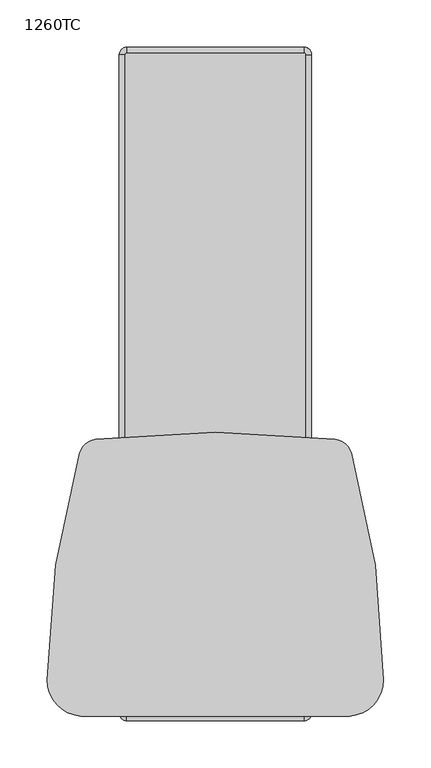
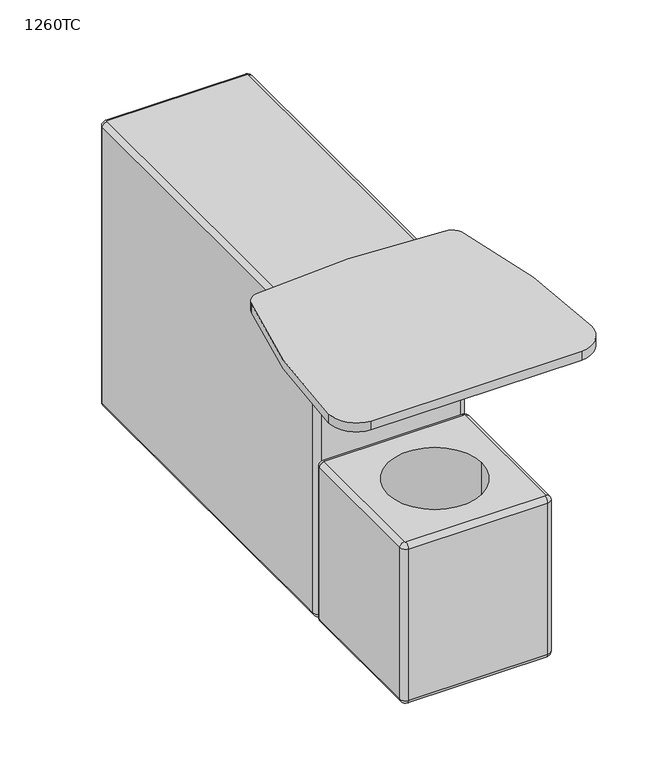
"""IFC4 building model written with IfcOpenShell, lengths in millimetres: furniture geometry, Laguna-Box_Arm-ERG : 1260TC."""

from ifc_helpers import new_model, si_unit, point, frame, frame_2d, origin, place, context, project, spatial, polyline, circle_curve, ellipse_curve, trimmed, segment, composite_curve, outline, extrude, source, transform, mapped, element, save
from ifc_brep_helpers import plane_surface, cylinder_surface, revolved_surface, advanced_brep


def furniture_1260tc_43bf5e02(model_context):
    return source(origin(), model_context, "Body", "SolidModel", [
        advanced_brep(
        [(-4669.0921763, 743.9358502, 431.8), (-4670.3621763, 745.2058502, 431.8), (-4858.3221763, 745.2058502, 431.8), (-4859.5921763, 743.9358502, 431.8), (-4859.5921763, 555.9758502, 431.8), (-4858.3221763, 554.7058502, 431.8), (-4670.3621763, 554.7058502, 431.8), (-4669.0921763, 555.9758502, 431.8), (-4700.8421763, 649.9558502, 431.8), (-4827.8421763, 649.9558502, 431.8), (-4670.3621763, 745.2058502, 203.2), (-4669.0921763, 743.9358502, 203.2), (-4669.0921763, 555.9758502, 203.2), (-4670.3621763, 554.7058502, 203.2), (-4858.3221763, 554.7058502, 203.2), (-4859.5921763, 555.9758502, 203.2), (-4859.5921763, 743.9358502, 203.2), (-4858.3221761, 745.2058502, 203.2), (-4662.7421763, 743.9358502, 209.55), (-4670.3621763, 751.5558502, 209.55), (-4670.3621763, 751.5558502, 425.45), (-4662.7421763, 743.9358502, 425.45), (-4662.7421763, 555.9758502, 425.45), (-4662.7421763, 555.9758502, 209.55), (-4670.3621763, 548.3558502, 425.45), (-4670.3621763, 548.3558502, 209.55), (-4858.3221763, 548.3558502, 425.45), (-4858.3221763, 548.3558502, 209.55), (-4865.9421763, 555.9758502, 425.45), (-4865.9421763, 555.9758502, 209.55), (-4865.9421763, 743.9358502, 425.45), (-4865.9421763, 743.9358502, 209.55), (-4858.3221763, 751.5558502, 425.45), (-4858.3221763, 751.5558502, 209.55), (-4827.8421763, 649.9558502, 223.0884039), (-4700.8421763, 649.9558502, 223.0884039)],
        [
            (0, 1, circle_curve(frame((-4670.3621763, 743.9358502, 431.8), z_axis=(0.0, 0.0, 1.0), x_axis=(0.0, 1.0, 0.0)), 1.27)),
            (1, 2),
            (2, 3, circle_curve(frame((-4858.3221763, 743.9358502, 431.8), z_axis=(0.0, 0.0, 1.0), x_axis=(-1.0, 0.0, 0.0)), 1.27)),
            (3, 4),
            (4, 5, circle_curve(frame((-4858.3221763, 555.9758502, 431.8), z_axis=(0.0, 0.0, 1.0), x_axis=(0.0, -1.0, 0.0)), 1.27)),
            (5, 6),
            (6, 7, circle_curve(frame((-4670.3621763, 555.9758502, 431.8), z_axis=(0.0, 0.0, 1.0), x_axis=(1.0, 0.0, 0.0)), 1.27)),
            (7, 0),
            (8, 9, circle_curve(frame((-4764.3421763, 649.9558502, 431.8), z_axis=(0.0, 0.0, -1.0), x_axis=(1.0, 0.0, 0.0)), 63.5)),
            (9, 8, circle_curve(frame((-4764.3421763, 649.9558502, 431.8), z_axis=(0.0, 0.0, -1.0), x_axis=(1.0, 0.0, 0.0)), 63.5)),
            (10, 11, circle_curve(frame((-4670.3621763, 743.9358502, 203.2), z_axis=(0.0, 0.0, -1.0), x_axis=(0.0, 1.0, 0.0)), 1.27)),
            (11, 12),
            (12, 13, circle_curve(frame((-4670.3621763, 555.9758502, 203.2), z_axis=(0.0, 0.0, -1.0), x_axis=(1.0, 0.0, 0.0)), 1.27)),
            (13, 14),
            (14, 15, circle_curve(frame((-4858.3221763, 555.9758502, 203.2), z_axis=(0.0, 0.0, -1.0), x_axis=(0.0, -1.0, 0.0)), 1.27)),
            (15, 16),
            (16, 17, circle_curve(frame((-4858.3221763, 743.9358502, 203.2), z_axis=(0.0, 0.0, -1.0), x_axis=(-1.0, 0.0, 0.0)), 1.27)),
            (17, 10),
            (18, 19, circle_curve(frame((-4670.3621763, 743.9358502, 209.55), z_axis=(0.0, 0.0, 1.0), x_axis=(0.0, 1.0, 0.0)), 7.62)),
            (19, 20),
            (20, 21, circle_curve(frame((-4670.3621763, 743.9358502, 425.45), z_axis=(0.0, 0.0, -1.0), x_axis=(0.0, 1.0, 0.0)), 7.62)),
            (21, 18),
            (18, 11, circle_curve(frame((-4669.0921763, 743.9358502, 209.55), z_axis=(0.0, 1.0, 0.0), x_axis=(-1.0, 0.0, 0.0)), 6.35)),
            (10, 19, circle_curve(frame((-4670.3621763, 745.2058502, 209.55), z_axis=(1.0, 0.0, 0.0), x_axis=(0.0, -1.0, 0.0)), 6.35)),
            (20, 1, circle_curve(frame((-4670.3621763, 745.2058502, 425.45), z_axis=(1.0, 0.0, 0.0), x_axis=(0.0, -1.0, 0.0)), 6.35)),
            (0, 21, circle_curve(frame((-4669.0921763, 743.9358502, 425.45), z_axis=(0.0, 1.0, 0.0), x_axis=(-1.0, 0.0, 0.0)), 6.35)),
            (21, 22),
            (22, 23),
            (23, 18),
            (23, 12, circle_curve(frame((-4669.0921763, 555.9758502, 209.55), z_axis=(0.0, 1.0, 0.0), x_axis=(-1.0, 0.0, 0.0)), 6.35)),
            (7, 22, circle_curve(frame((-4669.0921763, 555.9758502, 425.45), z_axis=(0.0, 1.0, 0.0), x_axis=(-1.0, 0.0, 0.0)), 6.35)),
            (22, 24, circle_curve(frame((-4670.3621763, 555.9758502, 425.45), z_axis=(0.0, 0.0, -1.0), x_axis=(1.0, 0.0, 0.0)), 7.62)),
            (24, 25),
            (25, 23, circle_curve(frame((-4670.3621763, 555.9758502, 209.55), z_axis=(0.0, 0.0, 1.0), x_axis=(1.0, 0.0, 0.0)), 7.62)),
            (25, 13, circle_curve(frame((-4670.3621763, 554.7058502, 209.55), z_axis=(1.0, 0.0, 0.0), x_axis=(0.0, 1.0, 0.0)), 6.35)),
            (6, 24, circle_curve(frame((-4670.3621763, 554.7058502, 425.45), z_axis=(1.0, 0.0, 0.0), x_axis=(0.0, 1.0, 0.0)), 6.35)),
            (24, 26),
            (26, 27),
            (27, 25),
            (27, 14, circle_curve(frame((-4858.3221763, 554.7058502, 209.55), z_axis=(1.0, 0.0, 0.0), x_axis=(0.0, 1.0, 0.0)), 6.35)),
            (5, 26, circle_curve(frame((-4858.3221763, 554.7058502, 425.45), z_axis=(1.0, 0.0, 0.0), x_axis=(0.0, 1.0, 0.0)), 6.35)),
            (26, 28, circle_curve(frame((-4858.3221763, 555.9758502, 425.45), z_axis=(0.0, 0.0, -1.0), x_axis=(0.0, -1.0, 0.0)), 7.62)),
            (28, 29),
            (29, 27, circle_curve(frame((-4858.3221763, 555.9758502, 209.55), z_axis=(0.0, 0.0, 1.0), x_axis=(0.0, -1.0, 0.0)), 7.62)),
            (29, 15, circle_curve(frame((-4859.5921763, 555.9758502, 209.55), z_axis=(0.0, -1.0, 0.0), x_axis=(1.0, 0.0, 0.0)), 6.35)),
            (4, 28, circle_curve(frame((-4859.5921763, 555.9758502, 425.45), z_axis=(0.0, -1.0, 0.0), x_axis=(1.0, 0.0, 0.0)), 6.35)),
            (28, 30),
            (30, 31),
            (31, 29),
            (31, 16, circle_curve(frame((-4859.5921763, 743.9358502, 209.55), z_axis=(0.0, -1.0, 0.0), x_axis=(1.0, 0.0, 0.0)), 6.35)),
            (3, 30, circle_curve(frame((-4859.5921763, 743.9358502, 425.45), z_axis=(0.0, -1.0, 0.0), x_axis=(1.0, 0.0, 0.0)), 6.35)),
            (30, 32, circle_curve(frame((-4858.3221763, 743.9358502, 425.45), z_axis=(0.0, 0.0, -1.0), x_axis=(-1.0, 0.0, 0.0)), 7.62)),
            (32, 33),
            (33, 31, circle_curve(frame((-4858.3221763, 743.9358502, 209.55), z_axis=(0.0, 0.0, 1.0), x_axis=(-1.0, 0.0, 0.0)), 7.62)),
            (33, 17, circle_curve(frame((-4858.3221763, 745.2058502, 209.55), z_axis=(-1.0, 0.0, 0.0), x_axis=(0.0, -1.0, 0.0)), 6.35)),
            (2, 32, circle_curve(frame((-4858.3221763, 745.2058502, 425.45), z_axis=(-1.0, 0.0, 0.0), x_axis=(0.0, -1.0, 0.0)), 6.35)),
            (19, 33),
            (32, 20),
            (34, 35, circle_curve(frame((-4764.3421763, 649.9558502, 223.0884039), z_axis=(0.0, 0.0, 1.0), x_axis=(1.0, 0.0, 0.0)), 63.5)),
            (35, 34, circle_curve(frame((-4764.3421763, 649.9558502, 223.0884039), z_axis=(0.0, 0.0, 1.0), x_axis=(1.0, 0.0, 0.0)), 63.5)),
            (34, 9),
            (8, 35),
        ],
        [
            plane_surface(frame((-4859.5921763, 743.9358502, 431.8), z_axis=(0.0, 0.0, 1.0), x_axis=(0.0, -1.0, 0.0))),
            plane_surface(frame((-4859.5921763, 743.9358502, 203.2), z_axis=(0.0, 0.0, -1.0), x_axis=(0.0, 1.0, 0.0))),
            cylinder_surface(frame((-4670.3621763, 743.9358502, 0.0), z_axis=(0.0, 0.0, -1.0), x_axis=(0.0, 1.0, 0.0)), 7.62),
            revolved_surface(trimmed(ellipse_curve(frame((-4670.3621763, 745.2058502, 209.55), z_axis=(-1.0, 0.0, 0.0), x_axis=(0.0, -1.0, 0.0)), 6.35, 6.35), [point((-4670.3621763, 751.5558502, 209.55))], [point((-4670.3621763, 745.2058502, 203.2))], True, "CARTESIAN"), (-4670.3621763, 743.9358502, 0.0), (0.0, 0.0, -1.0)),
            revolved_surface(trimmed(ellipse_curve(frame((-4670.3621763, 745.2058502, 425.45), z_axis=(-1.0, 0.0, 0.0), x_axis=(0.0, -1.0, 0.0)), 6.35, 6.35), [point((-4670.3621763, 745.2058502, 431.8))], [point((-4670.3621763, 751.5558502, 425.45))], True, "CARTESIAN"), (-4670.3621763, 743.9358502, 0.0), (0.0, 0.0, -1.0)),
            plane_surface(frame((-4662.7421763, 743.9358502, 425.45), z_axis=(1.0, 0.0, 0.0), x_axis=(0.0, -1.0, 0.0))),
            cylinder_surface(frame((-4669.0921763, 743.9358502, 209.55), z_axis=(0.0, 1.0, 0.0), x_axis=(-1.0, 0.0, 0.0)), 6.35),
            cylinder_surface(frame((-4669.0921763, 743.9358502, 425.45), z_axis=(0.0, 1.0, 0.0), x_axis=(-1.0, 0.0, 0.0)), 6.35),
            cylinder_surface(frame((-4670.3621763, 555.9758502, 0.0), z_axis=(0.0, 0.0, -1.0), x_axis=(1.0, 0.0, 0.0)), 7.62),
            revolved_surface(trimmed(ellipse_curve(frame((-4669.0921763, 555.9758502, 209.55), z_axis=(0.0, 1.0, 0.0), x_axis=(-1.0, 0.0, 0.0)), 6.35, 6.35), [point((-4662.7421763, 555.9758502, 209.55))], [point((-4669.0921763, 555.9758502, 203.2))], True, "CARTESIAN"), (-4670.3621763, 555.9758502, 0.0), (0.0, 0.0, -1.0)),
            revolved_surface(trimmed(ellipse_curve(frame((-4669.0921763, 555.9758502, 425.45), z_axis=(0.0, 1.0, 0.0), x_axis=(-1.0, 0.0, 0.0)), 6.35, 6.35), [point((-4669.0921763, 555.9758502, 431.8))], [point((-4662.7421763, 555.9758502, 425.45))], True, "CARTESIAN"), (-4670.3621763, 555.9758502, 0.0), (0.0, 0.0, -1.0)),
            plane_surface(frame((-4670.3621763, 548.3558502, 425.45), z_axis=(0.0, -1.0, 0.0), x_axis=(-1.0, 0.0, 0.0))),
            cylinder_surface(frame((-4670.3621763, 554.7058502, 209.55), z_axis=(1.0, 0.0, 0.0), x_axis=(0.0, 1.0, 0.0)), 6.35),
            cylinder_surface(frame((-4670.3621763, 554.7058502, 425.45), z_axis=(1.0, 0.0, 0.0), x_axis=(0.0, 1.0, 0.0)), 6.35),
            cylinder_surface(frame((-4858.3221763, 555.9758502, 0.0), z_axis=(0.0, 0.0, -1.0), x_axis=(0.0, -1.0, 0.0)), 7.62),
            revolved_surface(trimmed(ellipse_curve(frame((-4858.3221763, 554.7058502, 209.55), z_axis=(1.0, 0.0, 0.0), x_axis=(0.0, 1.0, 0.0)), 6.35, 6.35), [point((-4858.3221763, 548.3558502, 209.55))], [point((-4858.3221763, 554.7058502, 203.2))], True, "CARTESIAN"), (-4858.3221763, 555.9758502, 0.0), (0.0, 0.0, -1.0)),
            revolved_surface(trimmed(ellipse_curve(frame((-4858.3221763, 554.7058502, 425.45), z_axis=(1.0, 0.0, 0.0), x_axis=(0.0, 1.0, 0.0)), 6.35, 6.35), [point((-4858.3221763, 554.7058502, 431.8))], [point((-4858.3221763, 548.3558502, 425.45))], True, "CARTESIAN"), (-4858.3221763, 555.9758502, 0.0), (0.0, 0.0, -1.0)),
            plane_surface(frame((-4865.9421763, 555.9758502, 425.45), z_axis=(-1.0, 0.0, 0.0), x_axis=(0.0, 1.0, 0.0))),
            cylinder_surface(frame((-4859.5921763, 555.9758502, 209.55), z_axis=(0.0, -1.0, 0.0), x_axis=(1.0, 0.0, 0.0)), 6.35),
            cylinder_surface(frame((-4859.5921763, 555.9758502, 425.45), z_axis=(0.0, -1.0, 0.0), x_axis=(1.0, 0.0, 0.0)), 6.35),
            cylinder_surface(frame((-4858.3221763, 743.9358502, 0.0), z_axis=(0.0, 0.0, -1.0), x_axis=(-1.0, 0.0, 0.0)), 7.62),
            revolved_surface(trimmed(ellipse_curve(frame((-4859.5921763, 743.9358502, 209.55), z_axis=(0.0, -1.0, 0.0), x_axis=(1.0, 0.0, 0.0)), 6.35, 6.35), [point((-4865.9421763, 743.9358502, 209.55))], [point((-4859.5921763, 743.9358502, 203.2))], True, "CARTESIAN"), (-4858.3221763, 743.9358502, 0.0), (0.0, 0.0, -1.0)),
            revolved_surface(trimmed(ellipse_curve(frame((-4859.5921763, 743.9358502, 425.45), z_axis=(0.0, -1.0, 0.0), x_axis=(1.0, 0.0, 0.0)), 6.35, 6.35), [point((-4859.5921763, 743.9358502, 431.8))], [point((-4865.9421763, 743.9358502, 425.45))], True, "CARTESIAN"), (-4858.3221763, 743.9358502, 0.0), (0.0, 0.0, -1.0)),
            plane_surface(frame((-4858.3221763, 751.5558502, 425.45), z_axis=(0.0, 1.0, 0.0), x_axis=(1.0, 0.0, 0.0))),
            cylinder_surface(frame((-4858.3221763, 745.2058502, 209.55), z_axis=(-1.0, 0.0, 0.0), x_axis=(0.0, -1.0, 0.0)), 6.35),
            cylinder_surface(frame((-4858.3221763, 745.2058502, 425.45), z_axis=(-1.0, 0.0, 0.0), x_axis=(0.0, -1.0, 0.0)), 6.35),
            plane_surface(frame((-4700.8421763, 649.9558502, 223.0884039), z_axis=(0.0, 0.0, 1.0), x_axis=(0.0, -1.0, 0.0))),
            revolved_surface(polyline([(-4700.8421763, 649.9558502, 431.8), (-4700.8421763, 649.9558502, 223.0884039)]), (-4764.3421763, 649.9558502, 223.0884039), (0.0, 0.0, 1.0)),
        ],
        [
            (0, [[1, 2, 3, 4, 5, 6, 7, 8], [9, 10]]),
            (1, [[11, 12, 13, 14, 15, 16, 17, 18]]),
            (2, [[19, 20, 21, 22]]),
            (3, [[-19, 23, -11, 24]]),
            (4, [[-21, 25, -1, 26]]),
            (5, [[-22, 27, 28, 29]]),
            (6, [[-23, -29, 30, -12]]),
            (7, [[-26, -8, 31, -27]]),
            (8, [[-28, 32, 33, 34]]),
            (9, [[-30, -34, 35, -13]]),
            (10, [[-31, -7, 36, -32]]),
            (11, [[-33, 37, 38, 39]]),
            (12, [[-35, -39, 40, -14]]),
            (13, [[-36, -6, 41, -37]]),
            (14, [[-38, 42, 43, 44]]),
            (15, [[-40, -44, 45, -15]]),
            (16, [[-41, -5, 46, -42]]),
            (17, [[-43, 47, 48, 49]]),
            (18, [[-45, -49, 50, -16]]),
            (19, [[-46, -4, 51, -47]]),
            (20, [[-48, 52, 53, 54]]),
            (21, [[-50, -54, 55, -17]]),
            (22, [[-51, -3, 56, -52]]),
            (23, [[-20, 57, -53, 58]]),
            (24, [[-24, -18, -55, -57]]),
            (25, [[-25, -58, -56, -2]]),
            (26, [[59, 60]]),
            (27, [[-59, 61, -9, 62]]),
            (27, [[-60, -62, -10, -61]]),
        ],
    ),
        extrude(outline(composite_curve([segment(trimmed(circle_curve(frame_2d((-4640.2201849, 825.4179702)), 20.32), [point((-4637.8216439, 845.5959137))], [point((-4620.6950521, 831.0457217))], False, "CARTESIAN"), True, "CONTINUOUS"), segment(trimmed(circle_curve(frame_2d((-5459.684686, 589.2227749)), 873.1448583), [point((-4620.6950521, 831.0457217))], [point((-4586.5421763, 591.2479304))], False, "CARTESIAN"), True, "CONTINUOUS"), segment(trimmed(circle_curve(frame_2d((-4624.6420738, 591.159562)), 38.1), [point((-4586.5421763, 591.2479304))], [point((-4622.1003075, 553.144441))], False, "CARTESIAN"), True, "CONTINUOUS"), segment(trimmed(circle_curve(frame_2d((-4764.3421763, 2680.5397655)), 2132.1453084), [point((-4622.1003075, 553.144441))], [point((-4906.5840451, 553.144441))], False, "CARTESIAN"), True, "CONTINUOUS"), segment(trimmed(circle_curve(frame_2d((-4904.0422788, 591.159562)), 38.1), [point((-4906.5840451, 553.144441))], [point((-4942.1421763, 591.2479304))], False, "CARTESIAN"), True, "CONTINUOUS"), segment(trimmed(circle_curve(frame_2d((-4068.9996666, 589.2227749)), 873.1448583), [point((-4942.1421763, 591.2479304))], [point((-4907.9893006, 831.0457217))], False, "CARTESIAN"), True, "CONTINUOUS"), segment(trimmed(circle_curve(frame_2d((-4888.4641677, 825.4179702)), 20.32), [point((-4907.9893006, 831.0457217))], [point((-4890.8627087, 845.5959137))], False, "CARTESIAN"), True, "CONTINUOUS"), segment(trimmed(circle_curve(frame_2d((-4764.3421763, -218.7695361)), 1071.8587853), [point((-4890.8627087, 845.5959137))], [point((-4637.8216439, 845.5959137))], False, "CARTESIAN"), True, "CONTINUOUS")], self_intersect=False)), frame((0.0, 0.0, 609.6), z_axis=(0.0, 0.0, 1.0), x_axis=(1.0, 0.0, 0.0)), (0.0, 0.0, 1.0), 12.7),
        advanced_brep(
        [(-4669.0921763, 1251.9358502, 609.6), (-4670.3621763, 1253.2058502, 609.6), (-4858.3221763, 1253.2058502, 609.6), (-4859.5921763, 1251.9358502, 609.6), (-4859.5921763, 759.1758502, 609.6), (-4858.3221763, 757.9058502, 609.6), (-4670.3621763, 757.9058502, 609.6), (-4669.0921763, 759.1758502, 609.6), (-4670.3621763, 1253.2058502, 203.2), (-4669.0921763, 1251.9358502, 203.2), (-4669.0921763, 759.1758502, 203.2), (-4670.3621763, 757.9058502, 203.2), (-4858.3221763, 757.9058502, 203.2), (-4859.5921763, 759.1758502, 203.2), (-4859.5921763, 1251.9358502, 203.2), (-4858.322176, 1253.2058502, 203.2), (-4662.7421763, 1251.9358502, 209.55), (-4670.3621763, 1259.5558502, 209.55), (-4670.3621763, 1259.5558502, 603.25), (-4662.7421763, 1251.9358502, 603.25), (-4662.7421763, 759.1758502, 603.25), (-4662.7421763, 759.1758502, 209.55), (-4670.3621763, 751.5558502, 603.25), (-4670.3621763, 751.5558502, 209.55), (-4858.3221763, 751.5558502, 603.25), (-4858.3221763, 751.5558502, 209.55), (-4865.9421763, 759.1758502, 603.25), (-4865.9421763, 759.1758502, 209.55), (-4865.9421763, 1251.9358502, 603.25), (-4865.9421763, 1251.9358502, 209.55), (-4858.3221763, 1259.5558502, 603.25), (-4858.3221763, 1259.5558502, 209.55)],
        [
            (0, 1, circle_curve(frame((-4670.3621763, 1251.9358502, 609.6), z_axis=(0.0, 0.0, 1.0), x_axis=(0.0, 1.0, 0.0)), 1.27)),
            (1, 2),
            (2, 3, circle_curve(frame((-4858.3221763, 1251.9358502, 609.6), z_axis=(0.0, 0.0, 1.0), x_axis=(-1.0, 0.0, 0.0)), 1.27)),
            (3, 4),
            (4, 5, circle_curve(frame((-4858.3221763, 759.1758502, 609.6), z_axis=(0.0, 0.0, 1.0), x_axis=(0.0, -1.0, 0.0)), 1.27)),
            (5, 6),
            (6, 7, circle_curve(frame((-4670.3621763, 759.1758502, 609.6), z_axis=(0.0, 0.0, 1.0), x_axis=(1.0, 0.0, 0.0)), 1.27)),
            (7, 0),
            (8, 9, circle_curve(frame((-4670.3621763, 1251.9358502, 203.2), z_axis=(0.0, 0.0, -1.0), x_axis=(0.0, 1.0, 0.0)), 1.27)),
            (9, 10),
            (10, 11, circle_curve(frame((-4670.3621763, 759.1758502, 203.2), z_axis=(0.0, 0.0, -1.0), x_axis=(1.0, 0.0, 0.0)), 1.27)),
            (11, 12),
            (12, 13, circle_curve(frame((-4858.3221763, 759.1758502, 203.2), z_axis=(0.0, 0.0, -1.0), x_axis=(0.0, -1.0, 0.0)), 1.27)),
            (13, 14),
            (14, 15, circle_curve(frame((-4858.3221763, 1251.9358502, 203.2), z_axis=(0.0, 0.0, -1.0), x_axis=(-1.0, 0.0, 0.0)), 1.27)),
            (15, 8),
            (16, 17, circle_curve(frame((-4670.3621763, 1251.9358502, 209.55), z_axis=(0.0, 0.0, 1.0), x_axis=(0.0, 1.0, 0.0)), 7.62)),
            (17, 18),
            (18, 19, circle_curve(frame((-4670.3621763, 1251.9358502, 603.25), z_axis=(0.0, 0.0, -1.0), x_axis=(0.0, 1.0, 0.0)), 7.62)),
            (19, 16),
            (16, 9, circle_curve(frame((-4669.0921763, 1251.9358502, 209.55), z_axis=(0.0, 1.0, 0.0), x_axis=(1.0, 0.0, 0.0)), 6.35)),
            (8, 17, circle_curve(frame((-4670.3621763, 1253.2058502, 209.55), z_axis=(1.0, 0.0, 0.0), x_axis=(0.0, 1.0, 0.0)), 6.35)),
            (18, 1, circle_curve(frame((-4670.3621763, 1253.2058502, 603.25), z_axis=(1.0, 0.0, 0.0), x_axis=(0.0, 1.0, 0.0)), 6.35)),
            (0, 19, circle_curve(frame((-4669.0921763, 1251.9358502, 603.25), z_axis=(0.0, 1.0, 0.0), x_axis=(1.0, 0.0, 0.0)), 6.35)),
            (19, 20),
            (20, 21),
            (21, 16),
            (21, 10, circle_curve(frame((-4669.0921763, 759.1758502, 209.55), z_axis=(0.0, 1.0, 0.0), x_axis=(1.0, 0.0, 0.0)), 6.35)),
            (7, 20, circle_curve(frame((-4669.0921763, 759.1758502, 603.25), z_axis=(0.0, 1.0, 0.0), x_axis=(1.0, 0.0, 0.0)), 6.35)),
            (20, 22, circle_curve(frame((-4670.3621763, 759.1758502, 603.25), z_axis=(0.0, 0.0, -1.0), x_axis=(1.0, 0.0, 0.0)), 7.62)),
            (22, 23),
            (23, 21, circle_curve(frame((-4670.3621763, 759.1758502, 209.55), z_axis=(0.0, 0.0, 1.0), x_axis=(1.0, 0.0, 0.0)), 7.62)),
            (23, 11, circle_curve(frame((-4670.3621763, 757.9058502, 209.55), z_axis=(1.0, 0.0, 0.0), x_axis=(0.0, -1.0, 0.0)), 6.35)),
            (6, 22, circle_curve(frame((-4670.3621763, 757.9058502, 603.25), z_axis=(1.0, 0.0, 0.0), x_axis=(0.0, -1.0, 0.0)), 6.35)),
            (22, 24),
            (24, 25),
            (25, 23),
            (25, 12, circle_curve(frame((-4858.3221763, 757.9058502, 209.55), z_axis=(1.0, 0.0, 0.0), x_axis=(0.0, -1.0, 0.0)), 6.35)),
            (5, 24, circle_curve(frame((-4858.3221763, 757.9058502, 603.25), z_axis=(1.0, 0.0, 0.0), x_axis=(0.0, -1.0, 0.0)), 6.35)),
            (24, 26, circle_curve(frame((-4858.3221763, 759.1758502, 603.25), z_axis=(0.0, 0.0, -1.0), x_axis=(0.0, -1.0, 0.0)), 7.62)),
            (26, 27),
            (27, 25, circle_curve(frame((-4858.3221763, 759.1758502, 209.55), z_axis=(0.0, 0.0, 1.0), x_axis=(0.0, -1.0, 0.0)), 7.62)),
            (27, 13, circle_curve(frame((-4859.5921763, 759.1758502, 209.55), z_axis=(0.0, -1.0, 0.0), x_axis=(-1.0, 0.0, 0.0)), 6.35)),
            (4, 26, circle_curve(frame((-4859.5921763, 759.1758502, 603.25), z_axis=(0.0, -1.0, 0.0), x_axis=(-1.0, 0.0, 0.0)), 6.35)),
            (26, 28),
            (28, 29),
            (29, 27),
            (29, 14, circle_curve(frame((-4859.5921763, 1251.9358502, 209.55), z_axis=(0.0, -1.0, 0.0), x_axis=(-1.0, 0.0, 0.0)), 6.35)),
            (3, 28, circle_curve(frame((-4859.5921763, 1251.9358502, 603.25), z_axis=(0.0, -1.0, 0.0), x_axis=(-1.0, 0.0, 0.0)), 6.35)),
            (28, 30, circle_curve(frame((-4858.3221763, 1251.9358502, 603.25), z_axis=(0.0, 0.0, -1.0), x_axis=(-1.0, 0.0, 0.0)), 7.62)),
            (30, 31),
            (31, 29, circle_curve(frame((-4858.3221763, 1251.9358502, 209.55), z_axis=(0.0, 0.0, 1.0), x_axis=(-1.0, 0.0, 0.0)), 7.62)),
            (31, 15, circle_curve(frame((-4858.3221763, 1253.2058502, 209.55), z_axis=(-1.0, 0.0, 0.0), x_axis=(0.0, 1.0, 0.0)), 6.35)),
            (2, 30, circle_curve(frame((-4858.3221763, 1253.2058502, 603.25), z_axis=(-1.0, 0.0, 0.0), x_axis=(0.0, 1.0, 0.0)), 6.35)),
            (17, 31),
            (30, 18),
        ],
        [
            plane_surface(frame((-4857.0521763, 1251.9358502, 609.6), z_axis=(0.0, 0.0, 1.0), x_axis=(0.0, 1.0, 0.0))),
            plane_surface(frame((-4857.0521763, 1251.9358502, 203.2), z_axis=(0.0, 0.0, -1.0), x_axis=(0.0, -1.0, 0.0))),
            cylinder_surface(frame((-4670.3621763, 1251.9358502, 0.0), z_axis=(0.0, 0.0, -1.0), x_axis=(0.0, 1.0, 0.0)), 7.62),
            revolved_surface(trimmed(ellipse_curve(frame((-4670.3621763, 1253.2058502, 209.55), z_axis=(-1.0, 0.0, 0.0), x_axis=(0.0, 1.0, 0.0)), 6.35, 6.35), [point((-4670.3621763, 1259.5558502, 209.55))], [point((-4670.3621763, 1253.2058502, 203.2))], True, "CARTESIAN"), (-4670.3621763, 1251.9358502, 0.0), (0.0, 0.0, -1.0)),
            revolved_surface(trimmed(ellipse_curve(frame((-4670.3621763, 1253.2058502, 603.25), z_axis=(-1.0, 0.0, 0.0), x_axis=(0.0, 1.0, 0.0)), 6.35, 6.35), [point((-4670.3621763, 1253.2058502, 609.6))], [point((-4670.3621763, 1259.5558502, 603.25))], True, "CARTESIAN"), (-4670.3621763, 1251.9358502, 0.0), (0.0, 0.0, -1.0)),
            plane_surface(frame((-4662.7421763, 1251.9358502, 603.25), z_axis=(1.0, 0.0, 0.0), x_axis=(0.0, -1.0, 0.0))),
            cylinder_surface(frame((-4669.0921763, 1251.9358502, 209.55), z_axis=(0.0, 1.0, 0.0), x_axis=(1.0, 0.0, 0.0)), 6.35),
            cylinder_surface(frame((-4669.0921763, 1251.9358502, 603.25), z_axis=(0.0, 1.0, 0.0), x_axis=(1.0, 0.0, 0.0)), 6.35),
            cylinder_surface(frame((-4670.3621763, 759.1758502, 0.0), z_axis=(0.0, 0.0, -1.0), x_axis=(1.0, 0.0, 0.0)), 7.62),
            revolved_surface(trimmed(ellipse_curve(frame((-4669.0921763, 759.1758502, 209.55), z_axis=(0.0, 1.0, 0.0), x_axis=(1.0, 0.0, 0.0)), 6.35, 6.35), [point((-4662.7421763, 759.1758502, 209.55))], [point((-4669.0921763, 759.1758502, 203.2))], True, "CARTESIAN"), (-4670.3621763, 759.1758502, 0.0), (0.0, 0.0, -1.0)),
            revolved_surface(trimmed(ellipse_curve(frame((-4669.0921763, 759.1758502, 603.25), z_axis=(0.0, 1.0, 0.0), x_axis=(1.0, 0.0, 0.0)), 6.35, 6.35), [point((-4669.0921763, 759.1758502, 609.6))], [point((-4662.7421763, 759.1758502, 603.25))], True, "CARTESIAN"), (-4670.3621763, 759.1758502, 0.0), (0.0, 0.0, -1.0)),
            plane_surface(frame((-4670.3621763, 751.5558502, 603.25), z_axis=(0.0, -1.0, 0.0), x_axis=(-1.0, 0.0, 0.0))),
            cylinder_surface(frame((-4670.3621763, 757.9058502, 209.55), z_axis=(1.0, 0.0, 0.0), x_axis=(0.0, -1.0, 0.0)), 6.35),
            cylinder_surface(frame((-4670.3621763, 757.9058502, 603.25), z_axis=(1.0, 0.0, 0.0), x_axis=(0.0, -1.0, 0.0)), 6.35),
            cylinder_surface(frame((-4858.3221763, 759.1758502, 0.0), z_axis=(0.0, 0.0, -1.0), x_axis=(0.0, -1.0, 0.0)), 7.62),
            revolved_surface(trimmed(ellipse_curve(frame((-4858.3221763, 757.9058502, 209.55), z_axis=(1.0, 0.0, 0.0), x_axis=(0.0, -1.0, 0.0)), 6.35, 6.35), [point((-4858.3221763, 751.5558502, 209.55))], [point((-4858.3221763, 757.9058502, 203.2))], True, "CARTESIAN"), (-4858.3221763, 759.1758502, 0.0), (0.0, 0.0, -1.0)),
            revolved_surface(trimmed(ellipse_curve(frame((-4858.3221763, 757.9058502, 603.25), z_axis=(1.0, 0.0, 0.0), x_axis=(0.0, -1.0, 0.0)), 6.35, 6.35), [point((-4858.3221763, 757.9058502, 609.6))], [point((-4858.3221763, 751.5558502, 603.25))], True, "CARTESIAN"), (-4858.3221763, 759.1758502, 0.0), (0.0, 0.0, -1.0)),
            plane_surface(frame((-4865.9421763, 759.1758502, 603.25), z_axis=(-1.0, 0.0, 0.0), x_axis=(0.0, 1.0, 0.0))),
            cylinder_surface(frame((-4859.5921763, 759.1758502, 209.55), z_axis=(0.0, -1.0, 0.0), x_axis=(-1.0, 0.0, 0.0)), 6.35),
            cylinder_surface(frame((-4859.5921763, 759.1758502, 603.25), z_axis=(0.0, -1.0, 0.0), x_axis=(-1.0, 0.0, 0.0)), 6.35),
            cylinder_surface(frame((-4858.3221763, 1251.9358502, 0.0), z_axis=(0.0, 0.0, -1.0), x_axis=(-1.0, 0.0, 0.0)), 7.62),
            revolved_surface(trimmed(ellipse_curve(frame((-4859.5921763, 1251.9358502, 209.55), z_axis=(0.0, -1.0, 0.0), x_axis=(-1.0, 0.0, 0.0)), 6.35, 6.35), [point((-4865.9421763, 1251.9358502, 209.55))], [point((-4859.5921763, 1251.9358502, 203.2))], True, "CARTESIAN"), (-4858.3221763, 1251.9358502, 0.0), (0.0, 0.0, -1.0)),
            revolved_surface(trimmed(ellipse_curve(frame((-4859.5921763, 1251.9358502, 603.25), z_axis=(0.0, -1.0, 0.0), x_axis=(-1.0, 0.0, 0.0)), 6.35, 6.35), [point((-4859.5921763, 1251.9358502, 609.6))], [point((-4865.9421763, 1251.9358502, 603.25))], True, "CARTESIAN"), (-4858.3221763, 1251.9358502, 0.0), (0.0, 0.0, -1.0)),
            plane_surface(frame((-4858.3221763, 1259.5558502, 603.25), z_axis=(0.0, 1.0, 0.0), x_axis=(1.0, 0.0, 0.0))),
            cylinder_surface(frame((-4858.3221763, 1253.2058502, 209.55), z_axis=(-1.0, 0.0, 0.0), x_axis=(0.0, 1.0, 0.0)), 6.35),
            cylinder_surface(frame((-4858.3221763, 1253.2058502, 603.25), z_axis=(-1.0, 0.0, 0.0), x_axis=(0.0, 1.0, 0.0)), 6.35),
        ],
        [
            (0, [[1, 2, 3, 4, 5, 6, 7, 8]]),
            (1, [[9, 10, 11, 12, 13, 14, 15, 16]]),
            (2, [[17, 18, 19, 20]]),
            (3, [[-17, 21, -9, 22]]),
            (4, [[-19, 23, -1, 24]]),
            (5, [[-20, 25, 26, 27]]),
            (6, [[-21, -27, 28, -10]]),
            (7, [[-24, -8, 29, -25]]),
            (8, [[-26, 30, 31, 32]]),
            (9, [[-28, -32, 33, -11]]),
            (10, [[-29, -7, 34, -30]]),
            (11, [[-31, 35, 36, 37]]),
            (12, [[-33, -37, 38, -12]]),
            (13, [[-34, -6, 39, -35]]),
            (14, [[-36, 40, 41, 42]]),
            (15, [[-38, -42, 43, -13]]),
            (16, [[-39, -5, 44, -40]]),
            (17, [[-41, 45, 46, 47]]),
            (18, [[-43, -47, 48, -14]]),
            (19, [[-44, -4, 49, -45]]),
            (20, [[-46, 50, 51, 52]]),
            (21, [[-48, -52, 53, -15]]),
            (22, [[-49, -3, 54, -50]]),
            (23, [[-18, 55, -51, 56]]),
            (24, [[-22, -16, -53, -55]]),
            (25, [[-23, -56, -54, -2]]),
        ],
    ),
    ])


if __name__ == "__main__":
    model = new_model("IFC4")
    model_context = context("Model", 3, world=origin())
    ifc_project = project(units=[si_unit("LENGTHUNIT", "METRE", prefix="MILLI")], contexts=[model_context])
    site = spatial("IfcSite", under=ifc_project)
    building = spatial("IfcBuilding", under=site)
    placement = place(None, origin())
    furniture_1260tc_shape = furniture_1260tc_43bf5e02(model_context)
    element("IfcFurniture", 1, ObjectType="Laguna-Box_Arm-ERG : 1260TC", at=placement, inside=building, context=model_context, shape_type="MappedRepresentation", body=[
        mapped(furniture_1260tc_shape, transform((0.0, 0.0, 0.0), x_axis=(1.0, 0.0, 0.0), y_axis=(0.0, 1.0, 0.0), z_axis=(0.0, 0.0, 1.0))),
    ])
    save(model, "model.ifc")
